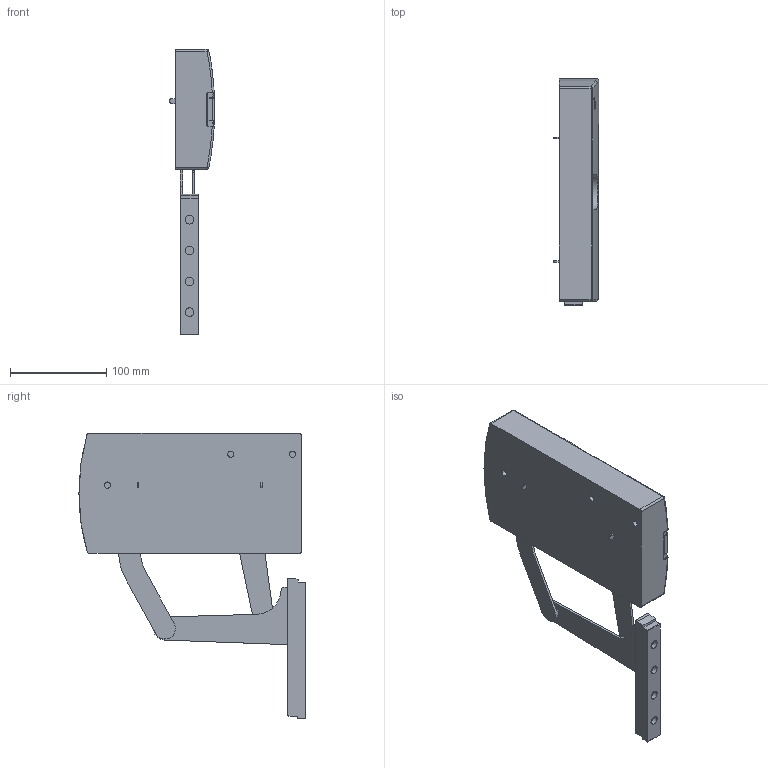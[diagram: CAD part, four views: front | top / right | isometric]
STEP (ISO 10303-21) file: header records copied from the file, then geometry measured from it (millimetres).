
FILE_DESCRIPTION (( 'STEP AP203' ), '1' );
FILE_NAME ('Kinvaro_S-35_links_D235600_125~b.step', '2012-05-04T06:41:11', ( 'admin' ), ( 'Hewlett-Packard Company' ), 'SwSTEP 2.0', 'SolidWorks 2011', '' );
FILE_SCHEMA (( 'CONFIG_CONTROL_DESIGN' ));
Length unit declared in the file: millimetre
Products named in the file (1): Kinvaro_S-35_links_D235600_125~b
Bounding box: 47 x 234.53 x 295.78 mm (x, y, z)
Volume: 1160013.9 mm3; surface area: 113891.6 mm2
Topology: 1 solids, 1 shells, 499 faces, 1332 edges, 858 vertices
Faces by surface type: cylinder 274, plane 179, torus 33, bspline 7, sphere 6
Entity records: 16329 total; most frequent: CARTESIAN_POINT 3801, ORIENTED_EDGE 2656, DIRECTION 2629, EDGE_CURVE 1328, AXIS2_PLACEMENT_3D 984, VERTEX_POINT 858, LINE 661, VECTOR 661
